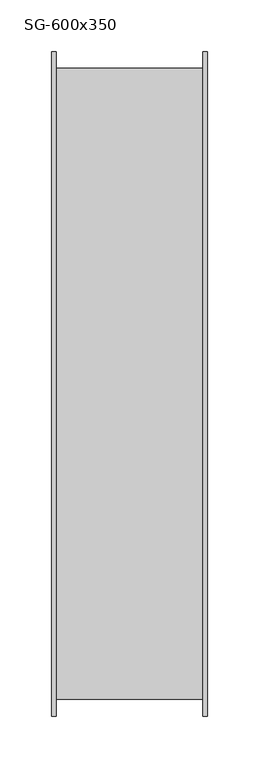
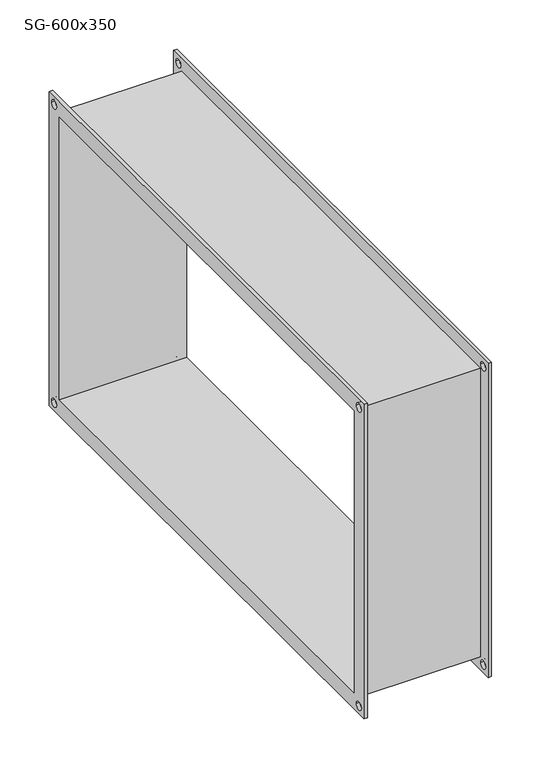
"""IFC4 building model written with IfcOpenShell, lengths in millimetres: damper geometry, СВ_ГибкаяВставка_КанальнаяПрямоугольная_200-1000_SG : SG-600x350."""

from ifc_helpers import new_model, si_unit, frame, origin, place, context, project, spatial, polyline, circle_curve, source, transform, mapped, element, save
from ifc_brep_helpers import plane_surface, revolved_surface, advanced_brep


def sg_600x350_6535a138(model_context):
    return source(origin(), model_context, "Body", "AdvancedBrep", [
        advanced_brep(
        [(71.0, -304.0, 179.0), (-71.0, -304.0, 179.0), (-71.0, -304.0, -179.0), (71.0, -304.0, -179.0), (-71.0, 304.0, -179.0), (71.0, 304.0, -179.0), (-71.0, 304.0, 179.0), (71.0, 304.0, 179.0), (-75.0, -320.0, 195.0), (-75.0, 320.0, 195.0), (-75.0, 320.0, -195.0), (-75.0, -320.0, -195.0), (-75.0, -300.0, 175.0), (-75.0, -300.0, -175.0), (-75.0, 300.0, -175.0), (-75.0, 300.0, 175.0), (-75.0, 305.0, 185.0), (-75.0, 315.0, 185.0), (-75.0, 305.0, -185.0), (-75.0, 315.0, -185.0), (-75.0, -315.0, 185.0), (-75.0, -305.0, 185.0), (-75.0, -315.0, -185.0), (-75.0, -305.0, -185.0), (-71.0, -320.0, 195.0), (-71.0, -320.0, -195.0), (-71.0, 320.0, -195.0), (-71.0, 320.0, 195.0), (-71.0, 315.0, 185.0), (-71.0, 305.0, 185.0), (-71.0, 315.0, -185.0), (-71.0, 305.0, -185.0), (-71.0, -305.0, 185.0), (-71.0, -315.0, 185.0), (-71.0, -305.0, -185.0), (-71.0, -315.0, -185.0), (71.0, 320.0, 195.0), (71.0, 320.0, -195.0), (71.0, -320.0, -195.0), (71.0, -320.0, 195.0), (71.0, 305.0, 185.0), (71.0, 315.0, 185.0), (71.0, 305.0, -185.0), (71.0, 315.0, -185.0), (71.0, -315.0, 185.0), (71.0, -305.0, 185.0), (71.0, -315.0, -185.0), (71.0, -305.0, -185.0), (75.0, 320.0, 195.0), (75.0, -320.0, 195.0), (75.0, -320.0, -195.0), (75.0, 320.0, -195.0), (75.0, 300.0, 175.0), (75.0, 300.0, -175.0), (75.0, -300.0, -175.0), (75.0, -300.0, 175.0), (75.0, 315.0, 185.0), (75.0, 305.0, 185.0), (75.0, 315.0, -185.0), (75.0, 305.0, -185.0), (75.0, -305.0, 185.0), (75.0, -315.0, 185.0), (75.0, -305.0, -185.0), (75.0, -315.0, -185.0)],
        [
            (0, 1),
            (1, 2),
            (2, 3),
            (3, 0),
            (2, 4),
            (4, 5),
            (5, 3),
            (4, 6),
            (6, 7),
            (7, 5),
            (0, 7),
            (6, 1),
            (8, 9),
            (9, 10),
            (10, 11),
            (11, 8),
            (12, 13),
            (13, 14),
            (14, 15),
            (15, 12),
            (16, 17, circle_curve(frame((-75.0, 310.0, 185.0), z_axis=(1.0, 0.0, 0.0), x_axis=(0.0, 1.0, 0.0)), 5.0)),
            (17, 16, circle_curve(frame((-75.0, 310.0, 185.0), z_axis=(1.0, 0.0, 0.0), x_axis=(0.0, 1.0, 0.0)), 5.0)),
            (18, 19, circle_curve(frame((-75.0, 310.0, -185.0), z_axis=(1.0, 0.0, 0.0), x_axis=(0.0, 1.0, 0.0)), 5.0)),
            (19, 18, circle_curve(frame((-75.0, 310.0, -185.0), z_axis=(1.0, 0.0, 0.0), x_axis=(0.0, 1.0, 0.0)), 5.0)),
            (20, 21, circle_curve(frame((-75.0, -310.0, 185.0), z_axis=(1.0, 0.0, 0.0), x_axis=(0.0, 1.0, 0.0)), 5.0)),
            (21, 20, circle_curve(frame((-75.0, -310.0, 185.0), z_axis=(1.0, 0.0, 0.0), x_axis=(0.0, 1.0, 0.0)), 5.0)),
            (22, 23, circle_curve(frame((-75.0, -310.0, -185.0), z_axis=(1.0, 0.0, 0.0), x_axis=(0.0, 1.0, 0.0)), 5.0)),
            (23, 22, circle_curve(frame((-75.0, -310.0, -185.0), z_axis=(1.0, 0.0, 0.0), x_axis=(0.0, 1.0, 0.0)), 5.0)),
            (24, 25),
            (25, 26),
            (26, 27),
            (27, 24),
            (28, 29, circle_curve(frame((-71.0, 310.0, 185.0), z_axis=(-1.0, 0.0, 0.0), x_axis=(0.0, 1.0, 0.0)), 5.0)),
            (29, 28, circle_curve(frame((-71.0, 310.0, 185.0), z_axis=(-1.0, 0.0, 0.0), x_axis=(0.0, 1.0, 0.0)), 5.0)),
            (30, 31, circle_curve(frame((-71.0, 310.0, -185.0), z_axis=(-1.0, 0.0, 0.0), x_axis=(0.0, 1.0, 0.0)), 5.0)),
            (31, 30, circle_curve(frame((-71.0, 310.0, -185.0), z_axis=(-1.0, 0.0, 0.0), x_axis=(0.0, 1.0, 0.0)), 5.0)),
            (32, 33, circle_curve(frame((-71.0, -310.0, 185.0), z_axis=(-1.0, 0.0, 0.0), x_axis=(0.0, 1.0, 0.0)), 5.0)),
            (33, 32, circle_curve(frame((-71.0, -310.0, 185.0), z_axis=(-1.0, 0.0, 0.0), x_axis=(0.0, 1.0, 0.0)), 5.0)),
            (34, 35, circle_curve(frame((-71.0, -310.0, -185.0), z_axis=(-1.0, 0.0, 0.0), x_axis=(0.0, 1.0, 0.0)), 5.0)),
            (35, 34, circle_curve(frame((-71.0, -310.0, -185.0), z_axis=(-1.0, 0.0, 0.0), x_axis=(0.0, 1.0, 0.0)), 5.0)),
            (11, 25),
            (24, 8),
            (10, 26),
            (9, 27),
            (36, 37),
            (37, 38),
            (38, 39),
            (39, 36),
            (40, 41, circle_curve(frame((71.0, 310.0, 185.0), z_axis=(1.0, 0.0, 0.0), x_axis=(0.0, 1.0, 0.0)), 5.0)),
            (41, 40, circle_curve(frame((71.0, 310.0, 185.0), z_axis=(1.0, 0.0, 0.0), x_axis=(0.0, 1.0, 0.0)), 5.0)),
            (42, 43, circle_curve(frame((71.0, 310.0, -185.0), z_axis=(1.0, 0.0, 0.0), x_axis=(0.0, 1.0, 0.0)), 5.0)),
            (43, 42, circle_curve(frame((71.0, 310.0, -185.0), z_axis=(1.0, 0.0, 0.0), x_axis=(0.0, 1.0, 0.0)), 5.0)),
            (44, 45, circle_curve(frame((71.0, -310.0, 185.0), z_axis=(1.0, 0.0, 0.0), x_axis=(0.0, 1.0, 0.0)), 5.0)),
            (45, 44, circle_curve(frame((71.0, -310.0, 185.0), z_axis=(1.0, 0.0, 0.0), x_axis=(0.0, 1.0, 0.0)), 5.0)),
            (46, 47, circle_curve(frame((71.0, -310.0, -185.0), z_axis=(1.0, 0.0, 0.0), x_axis=(0.0, 1.0, 0.0)), 5.0)),
            (47, 46, circle_curve(frame((71.0, -310.0, -185.0), z_axis=(1.0, 0.0, 0.0), x_axis=(0.0, 1.0, 0.0)), 5.0)),
            (48, 49),
            (49, 50),
            (50, 51),
            (51, 48),
            (52, 53),
            (53, 54),
            (54, 55),
            (55, 52),
            (56, 57, circle_curve(frame((75.0, 310.0, 185.0), z_axis=(-1.0, 0.0, 0.0), x_axis=(0.0, 1.0, 0.0)), 5.0)),
            (57, 56, circle_curve(frame((75.0, 310.0, 185.0), z_axis=(-1.0, 0.0, 0.0), x_axis=(0.0, 1.0, 0.0)), 5.0)),
            (58, 59, circle_curve(frame((75.0, 310.0, -185.0), z_axis=(-1.0, 0.0, 0.0), x_axis=(0.0, 1.0, 0.0)), 5.0)),
            (59, 58, circle_curve(frame((75.0, 310.0, -185.0), z_axis=(-1.0, 0.0, 0.0), x_axis=(0.0, 1.0, 0.0)), 5.0)),
            (60, 61, circle_curve(frame((75.0, -310.0, 185.0), z_axis=(-1.0, 0.0, 0.0), x_axis=(0.0, 1.0, 0.0)), 5.0)),
            (61, 60, circle_curve(frame((75.0, -310.0, 185.0), z_axis=(-1.0, 0.0, 0.0), x_axis=(0.0, 1.0, 0.0)), 5.0)),
            (62, 63, circle_curve(frame((75.0, -310.0, -185.0), z_axis=(-1.0, 0.0, 0.0), x_axis=(0.0, 1.0, 0.0)), 5.0)),
            (63, 62, circle_curve(frame((75.0, -310.0, -185.0), z_axis=(-1.0, 0.0, 0.0), x_axis=(0.0, 1.0, 0.0)), 5.0)),
            (39, 49),
            (48, 36),
            (38, 50),
            (37, 51),
            (15, 52),
            (55, 12),
            (14, 53),
            (13, 54),
            (16, 29),
            (28, 17),
            (40, 57),
            (56, 41),
            (18, 31),
            (30, 19),
            (42, 59),
            (58, 43),
            (20, 33),
            (32, 21),
            (44, 61),
            (60, 45),
            (22, 35),
            (34, 23),
            (46, 63),
            (62, 47),
        ],
        [
            plane_surface(frame((71.0, -304.0, 179.0), z_axis=(0.0, -1.0, 0.0), x_axis=(-1.0, 0.0, 0.0))),
            plane_surface(frame((71.0, -304.0, -179.0), z_axis=(0.0, 0.0, -1.0), x_axis=(-1.0, 0.0, 0.0))),
            plane_surface(frame((71.0, 304.0, -179.0), z_axis=(0.0, 1.0, 0.0), x_axis=(-1.0, 0.0, 0.0))),
            plane_surface(frame((71.0, 304.0, 179.0), z_axis=(0.0, 0.0, 1.0), x_axis=(-1.0, 0.0, 0.0))),
            plane_surface(frame((-75.0, -320.0, 195.0), z_axis=(-1.0, 0.0, 0.0), x_axis=(0.0, 0.0, 1.0))),
            plane_surface(frame((-71.0, -320.0, 195.0), z_axis=(1.0, 0.0, 0.0), x_axis=(0.0, 0.0, -1.0))),
            plane_surface(frame((-71.0, -320.0, 195.0), z_axis=(0.0, -1.0, 0.0), x_axis=(-1.0, 0.0, 0.0))),
            plane_surface(frame((-71.0, -320.0, -195.0), z_axis=(0.0, 0.0, -1.0), x_axis=(-1.0, 0.0, 0.0))),
            plane_surface(frame((-71.0, 320.0, -195.0), z_axis=(0.0, 1.0, 0.0), x_axis=(-1.0, 0.0, 0.0))),
            plane_surface(frame((-71.0, 320.0, 195.0), z_axis=(0.0, 0.0, 1.0), x_axis=(-1.0, 0.0, 0.0))),
            plane_surface(frame((71.0, 300.0, -175.0), z_axis=(-1.0, 0.0, 0.0), x_axis=(0.0, 0.0, 1.0))),
            plane_surface(frame((75.0, 300.0, -175.0), z_axis=(1.0, 0.0, 0.0), x_axis=(0.0, 0.0, -1.0))),
            plane_surface(frame((75.0, 320.0, 195.0), z_axis=(0.0, 0.0, 1.0), x_axis=(-1.0, 0.0, 0.0))),
            plane_surface(frame((75.0, -320.0, 195.0), z_axis=(0.0, -1.0, 0.0), x_axis=(-1.0, 0.0, 0.0))),
            plane_surface(frame((75.0, -320.0, -195.0), z_axis=(0.0, 0.0, -1.0), x_axis=(-1.0, 0.0, 0.0))),
            plane_surface(frame((75.0, 320.0, -195.0), z_axis=(0.0, 1.0, 0.0), x_axis=(-1.0, 0.0, 0.0))),
            plane_surface(frame((-71.0, -300.0, 175.0), z_axis=(0.0, 0.0, -1.0), x_axis=(-1.0, 0.0, 0.0))),
            plane_surface(frame((-71.0, 300.0, 175.0), z_axis=(0.0, -1.0, 0.0), x_axis=(-1.0, 0.0, 0.0))),
            plane_surface(frame((-71.0, 300.0, -175.0), z_axis=(0.0, 0.0, 1.0), x_axis=(-1.0, 0.0, 0.0))),
            plane_surface(frame((-71.0, -300.0, -175.0), z_axis=(0.0, 1.0, 0.0), x_axis=(-1.0, 0.0, 0.0))),
            revolved_surface(polyline([(-71.0, 315.0, 185.0), (-75.0, 315.0, 185.0)]), (-75.0, 310.0, 185.0), (1.0, 0.0, 0.0)),
            revolved_surface(polyline([(75.0, 315.0, 185.0), (71.0, 315.0, 185.0)]), (-75.0, 310.0, 185.0), (1.0, 0.0, 0.0)),
            revolved_surface(polyline([(-71.0, 315.0, -185.0), (-75.0, 315.0, -185.0)]), (0.0, 310.0, -185.0), (1.0, 0.0, 0.0)),
            revolved_surface(polyline([(75.0, 315.0, -185.0), (71.0, 315.0, -185.0)]), (0.0, 310.0, -185.0), (1.0, 0.0, 0.0)),
            revolved_surface(polyline([(-71.0, -305.0, 185.0), (-75.0, -305.0, 185.0)]), (0.0, -310.0, 185.0), (1.0, 0.0, 0.0)),
            revolved_surface(polyline([(75.0, -305.0, 185.0), (71.0, -305.0, 185.0)]), (0.0, -310.0, 185.0), (1.0, 0.0, 0.0)),
            revolved_surface(polyline([(-71.0, -305.0, -185.0), (-75.0, -305.0, -185.0)]), (0.0, -310.0, -185.0), (1.0, 0.0, 0.0)),
            revolved_surface(polyline([(75.0, -305.0, -185.0), (71.0, -305.0, -185.0)]), (0.0, -310.0, -185.0), (1.0, 0.0, 0.0)),
        ],
        [
            (0, [[1, 2, 3, 4]]),
            (1, [[-3, 5, 6, 7]]),
            (2, [[-6, 8, 9, 10]]),
            (3, [[-1, 11, -9, 12]]),
            (4, [[13, 14, 15, 16], [17, 18, 19, 20], [21, 22], [23, 24], [25, 26], [27, 28]]),
            (5, [[29, 30, 31, 32], [-2, -12, -8, -5], [33, 34], [35, 36], [37, 38], [39, 40]]),
            (6, [[-16, 41, -29, 42]]),
            (7, [[-15, 43, -30, -41]]),
            (8, [[-14, 44, -31, -43]]),
            (9, [[-13, -42, -32, -44]]),
            (10, [[45, 46, 47, 48], [-4, -7, -10, -11], [49, 50], [51, 52], [53, 54], [55, 56]]),
            (11, [[57, 58, 59, 60], [61, 62, 63, 64], [65, 66], [67, 68], [69, 70], [71, 72]]),
            (12, [[-48, 73, -57, 74]]),
            (13, [[-47, 75, -58, -73]]),
            (14, [[-46, 76, -59, -75]]),
            (15, [[-45, -74, -60, -76]]),
            (16, [[-20, 77, -64, 78]]),
            (17, [[-77, -19, 79, -61]]),
            (18, [[-79, -18, 80, -62]]),
            (19, [[-80, -17, -78, -63]]),
            (20, [[81, -33, 82, -21]]),
            (21, [[83, -65, 84, -49]]),
            (20, [[-81, -22, -82, -34]]),
            (21, [[-83, -50, -84, -66]]),
            (22, [[85, -35, 86, -23]]),
            (23, [[87, -67, 88, -51]]),
            (22, [[-85, -24, -86, -36]]),
            (23, [[-87, -52, -88, -68]]),
            (24, [[89, -37, 90, -25]]),
            (25, [[91, -69, 92, -53]]),
            (24, [[-89, -26, -90, -38]]),
            (25, [[-91, -54, -92, -70]]),
            (26, [[93, -39, 94, -27]]),
            (27, [[95, -71, 96, -55]]),
            (26, [[-93, -28, -94, -40]]),
            (27, [[-95, -56, -96, -72]]),
        ],
    ),
    ])


if __name__ == "__main__":
    model = new_model("IFC4")
    model_context = context("Model", 3, world=origin())
    ifc_project = project(units=[si_unit("LENGTHUNIT", "METRE", prefix="MILLI")], contexts=[model_context])
    site = spatial("IfcSite", under=ifc_project)
    building = spatial("IfcBuilding", under=site)
    placement = place(None, origin())
    sg_600x350_shape = sg_600x350_6535a138(model_context)
    element("IfcDamper", 1, ObjectType="СВ_ГибкаяВставка_КанальнаяПрямоугольная_200-1000_SG : SG-600x350", at=placement, inside=building, context=model_context, shape_type="MappedRepresentation", body=[
        mapped(sg_600x350_shape, transform((0.0, 0.0, 0.0), x_axis=(1.0, 0.0, 0.0), y_axis=(0.0, 1.0, 0.0), z_axis=(0.0, 0.0, 1.0))),
    ])
    save(model, "model.ifc")
